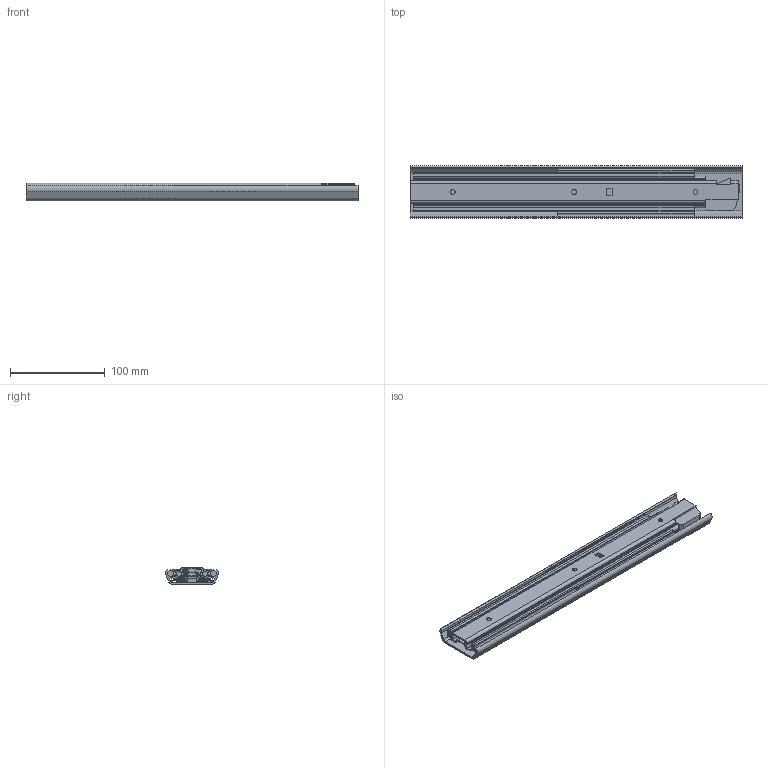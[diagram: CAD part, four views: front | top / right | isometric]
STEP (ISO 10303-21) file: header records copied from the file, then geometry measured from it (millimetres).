
FILE_DESCRIPTION( ( 'STEP AP203' ), '1' );
FILE_NAME( 'C:/Temp/Ganter_Step_05_03_2020/data/3_8/gn1422/Telescopic slide GN 1422-350-B-2-ZB (0).stp', '2020-03-12T15:26:02', ( 'License CC BY-ND 4.0' ), ( 'CADENAS' ), ' ', 'PARTsolutions', ' ' );
FILE_SCHEMA( ( 'CONFIG_CONTROL_DESIGN' ) );
Length unit declared in the file: millimetre
Products named in the file (4): Telescopic slide GN 1422-350-B-2-ZB (0); _Telescopic slide GN 1422-350-B-2-ZB (0)-1; _Telescopic slide GN 1422-350-B-2-ZB (0)-2; _Telescopic slide GN 1422-350-B-2-ZB (0)-3
Assembly tree (3 placements, depth 2):
  Telescopic slide GN 1422-350-B-2-ZB (0)
    _Telescopic slide GN 1422-350-B-2-ZB (0)-1
    _Telescopic slide GN 1422-350-B-2-ZB (0)-2
    _Telescopic slide GN 1422-350-B-2-ZB (0)-3
Bounding box: 350 x 55.78 x 18.5 mm (x, y, z)
Volume: 142870.1 mm3; surface area: 148512.1 mm2
Topology: 3 solids, 3 shells, 320 faces, 941 edges, 618 vertices
Faces by surface type: plane 190, cylinder 123, cone 7
Full cylindrical faces by diameter (mm): 5 x3, 6.5 x4, 11 x3
Entity records: 10840 total; most frequent: CARTESIAN_POINT 1980, ORIENTED_EDGE 1842, DIRECTION 1823, EDGE_CURVE 921, LINE 643, VECTOR 643, VERTEX_POINT 615, AXIS2_PLACEMENT_3D 590
